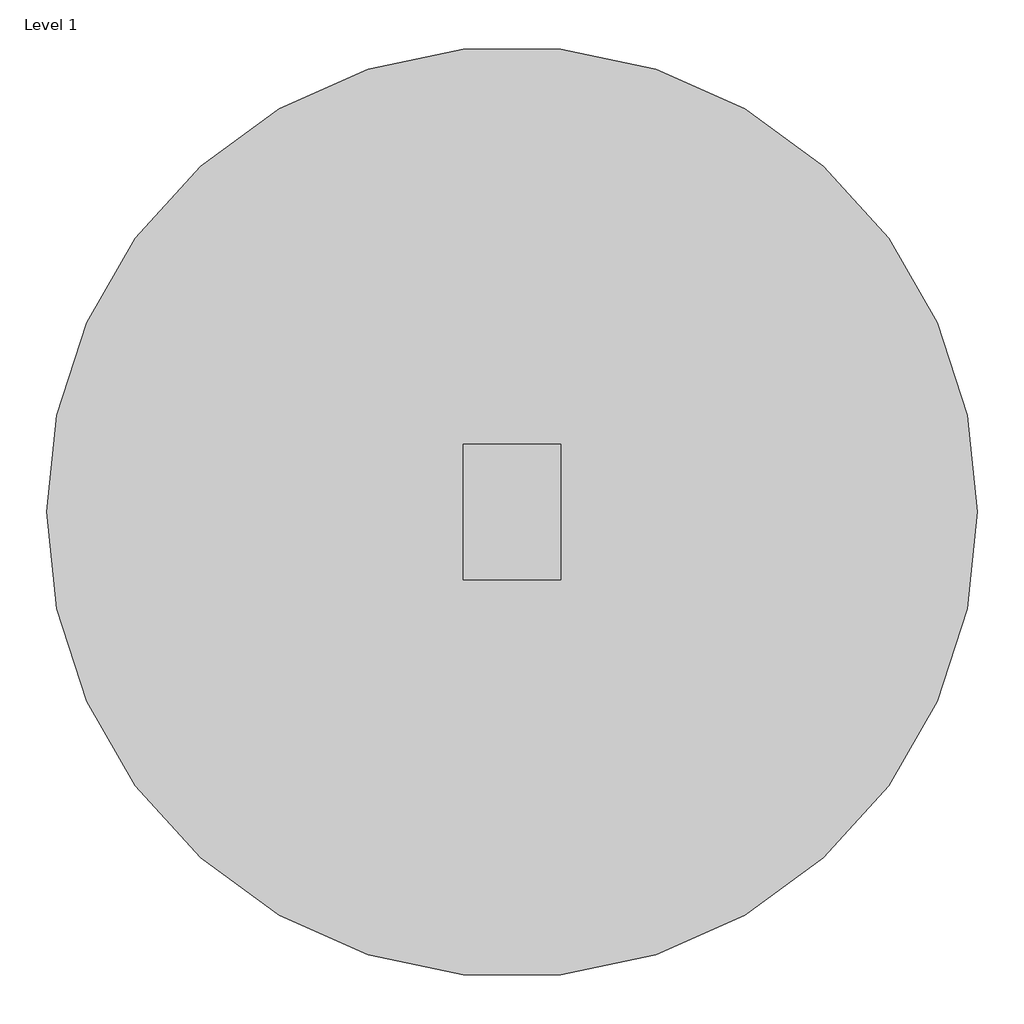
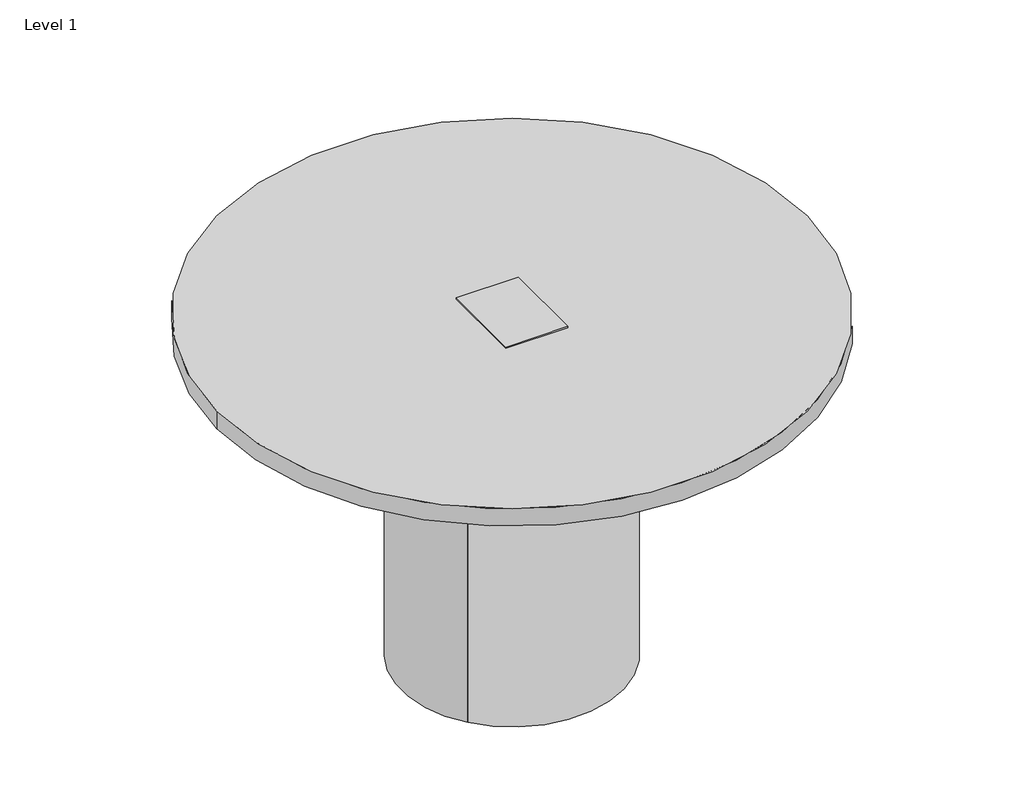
# One storey, incomplete: 10 proxies.
"""IFC4 building model written with IfcOpenShell, lengths in millimetres."""

from ifc_helpers import new_model, si_unit, origin, place, context, project, spatial, transform, mapped, element, save
from components import generic_models_f1c866eb, generic_models_05568dbf, generic_models_94c69031, generic_models_3b140b04, generic_models_ee1b57cd, generic_models_5d0cf63c, h_713a_4b53aa21

model = new_model("IFC4")

# Units and contexts
model_context = context("Model", 3, world=origin())
ifc_project = project(units=[si_unit("LENGTHUNIT", "METRE", prefix="MILLI")], contexts=[model_context])

# Site, building, storey
site = spatial("IfcSite", under=ifc_project)
building = spatial("IfcBuilding", under=site)
storey = spatial("IfcBuildingStorey", under=building, Name="Level 1", Elevation=0.0)

# Proxies
placement = place(None, origin())
generic_models_shape = generic_models_f1c866eb(model_context)
element("IfcBuildingElementProxy", 1, Name="FOUNDATION^TABLE 1_ROUND-BASE DOOR", ObjectType="FOUNDATION^TABLE 1_ROUND-BASE DOOR", at=placement, inside=storey, context=model_context, shape_type="MappedRepresentation", body=[
    mapped(generic_models_shape, transform((0.0, 0.0, 0.0), x_axis=(1.0, 0.0, 0.0), y_axis=(0.0, 0.0, 1.0), z_axis=(0.0, -1.0, 0.0))),
])
generic_models_2_shape = generic_models_05568dbf(model_context)
element("IfcBuildingElementProxy", 2, Name="ASHLEY DUO AIR (VISUAL ONLY)", ObjectType="ASHLEY DUO AIR (VISUAL ONLY)", at=placement, inside=storey, context=model_context, shape_type="MappedRepresentation", body=[
    mapped(generic_models_2_shape, transform((64.135, -88.9, 38.1), x_axis=(0.0, 1.0, 0.0), y_axis=(0.0, 0.0, 1.0), z_axis=(1.0, 0.0, 0.0))),
])
generic_models_3_shape = generic_models_94c69031(model_context)
element("IfcBuildingElementProxy", 3, Name="FOUNDATION^TABLE 1_ROUND-SUB TOP", ObjectType="FOUNDATION^TABLE 1_ROUND-SUB TOP", at=placement, inside=storey, context=model_context, shape_type="MappedRepresentation", body=[
    mapped(generic_models_3_shape, transform((0.0, 0.0, 0.0), x_axis=(1.0, 0.0, 0.0), y_axis=(0.0, 0.0, 1.0), z_axis=(0.0, -1.0, 0.0))),
])
generic_models_4_shape = generic_models_3b140b04(model_context)
element("IfcBuildingElementProxy", 4, Name="FOUNDATION^TABLE 1_ROUND-BASE BOTTOM", ObjectType="FOUNDATION^TABLE 1_ROUND-BASE BOTTOM", at=placement, inside=storey, context=model_context, shape_type="MappedRepresentation", body=[
    mapped(generic_models_4_shape, transform((0.0, 0.0, 0.0), x_axis=(1.0, 0.0, 0.0), y_axis=(0.0, 0.0, 1.0), z_axis=(0.0, -1.0, 0.0))),
])
generic_models_5_shape = generic_models_ee1b57cd(model_context)
element("IfcBuildingElementProxy", 5, Name="FOUNDATION^TABLE 1_ROUND-WORKSURFACE", ObjectType="FOUNDATION^TABLE 1_ROUND-WORKSURFACE", at=placement, inside=storey, context=model_context, shape_type="MappedRepresentation", body=[
    mapped(generic_models_5_shape, transform((0.0, 0.0, 0.0), x_axis=(1.0, 0.0, 0.0), y_axis=(0.0, 0.0, 1.0), z_axis=(0.0, -1.0, 0.0))),
])
generic_models_6_shape = generic_models_5d0cf63c(model_context)
element("IfcBuildingElementProxy", 6, Name="FOUNDATION^TABLE 1_ROUND-BASE SHELL", ObjectType="FOUNDATION^TABLE 1_ROUND-BASE SHELL", at=placement, inside=storey, context=model_context, shape_type="MappedRepresentation", body=[
    mapped(generic_models_6_shape, transform((0.0, 0.0, 0.0), x_axis=(1.0, 0.0, 0.0), y_axis=(0.0, 0.0, 1.0), z_axis=(0.0, -1.0, 0.0))),
])
h_713a_shape = h_713a_4b53aa21(model_context)
element("IfcBuildingElementProxy", 7, Name="H-713A", ObjectType="H-713A", at=placement, inside=storey, context=model_context, shape_type="MappedRepresentation", body=[
    mapped(h_713a_shape, transform((0.0, -190.5, -711.2), x_axis=(1.0, 0.0, 0.0), y_axis=(0.0, 0.0, 1.0), z_axis=(0.0, -1.0, 0.0))),
])
element("IfcBuildingElementProxy", 8, Name="H-713A", ObjectType="H-713A", at=placement, inside=storey, context=model_context, shape_type="MappedRepresentation", body=[
    mapped(h_713a_shape, transform((190.5, 0.0, -711.2), x_axis=(1.0, 0.0, 0.0), y_axis=(0.0, 0.0, 1.0), z_axis=(0.0, -1.0, 0.0))),
])
element("IfcBuildingElementProxy", 9, Name="H-713A", ObjectType="H-713A", at=placement, inside=storey, context=model_context, shape_type="MappedRepresentation", body=[
    mapped(h_713a_shape, transform((-190.5, 0.0, -711.2), x_axis=(1.0, 0.0, 0.0), y_axis=(0.0, 0.0, 1.0), z_axis=(0.0, -1.0, 0.0))),
])
element("IfcBuildingElementProxy", 10, Name="H-713A", ObjectType="H-713A", at=placement, inside=storey, context=model_context, shape_type="MappedRepresentation", body=[
    mapped(h_713a_shape, transform((0.0, 190.5, -711.2), x_axis=(1.0, 0.0, 0.0), y_axis=(0.0, 0.0, 1.0), z_axis=(0.0, -1.0, 0.0))),
])

save(model, "model.ifc")
